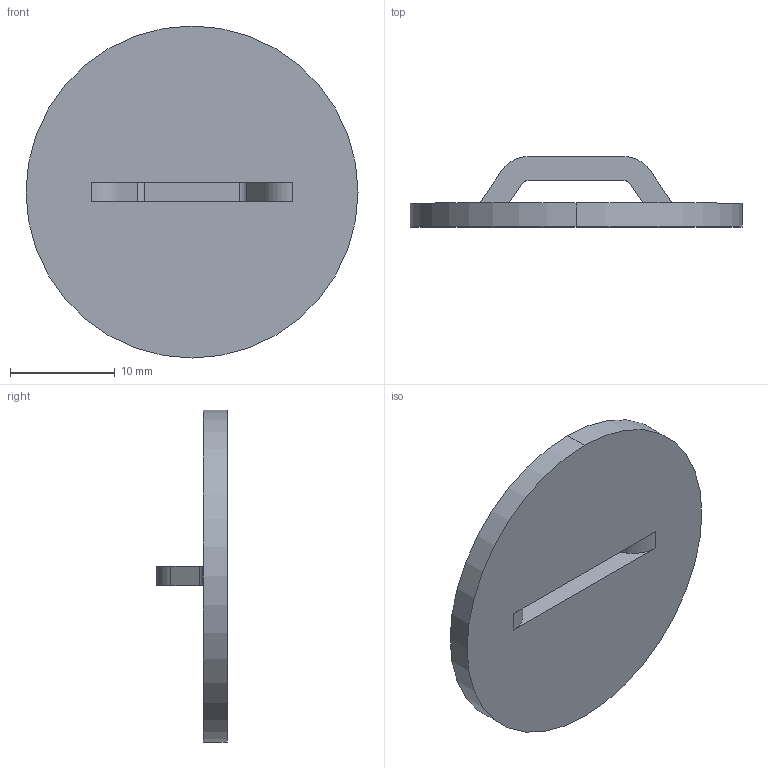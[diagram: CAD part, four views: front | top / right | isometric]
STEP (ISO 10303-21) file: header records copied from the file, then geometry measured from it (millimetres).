
FILE_DESCRIPTION (( 'STEP AP203' ), '1' );
FILE_NAME ('1973932-10 FU BRIDGE LANCE .075W X .361LFLAT X .175H X .090 THK.STEP', '2024-11-18T17:16:00', ( '' ), ( '' ), 'SwSTEP 2.0', 'SolidWorks 2024', '' );
FILE_SCHEMA (( 'CONFIG_CONTROL_DESIGN' ));
Length unit declared in the file: inch
Products named in the file (1): 1973932-10 FU BRIDGE LANCE .075W X .361LFLAT X .175H X .090 THK
Bounding box: 31.75 x 6.73 x 31.75 mm (x, y, z)
Volume: 1827.6 mm3; surface area: 1980.8 mm2
Topology: 1 solids, 1 shells, 22 faces, 62 edges, 40 vertices
Faces by surface type: plane 12, cylinder 10
Entity records: 801 total; most frequent: DIRECTION 128, CARTESIAN_POINT 125, ORIENTED_EDGE 124, EDGE_CURVE 62, AXIS2_PLACEMENT_3D 43, LINE 42, VECTOR 42, VERTEX_POINT 40
